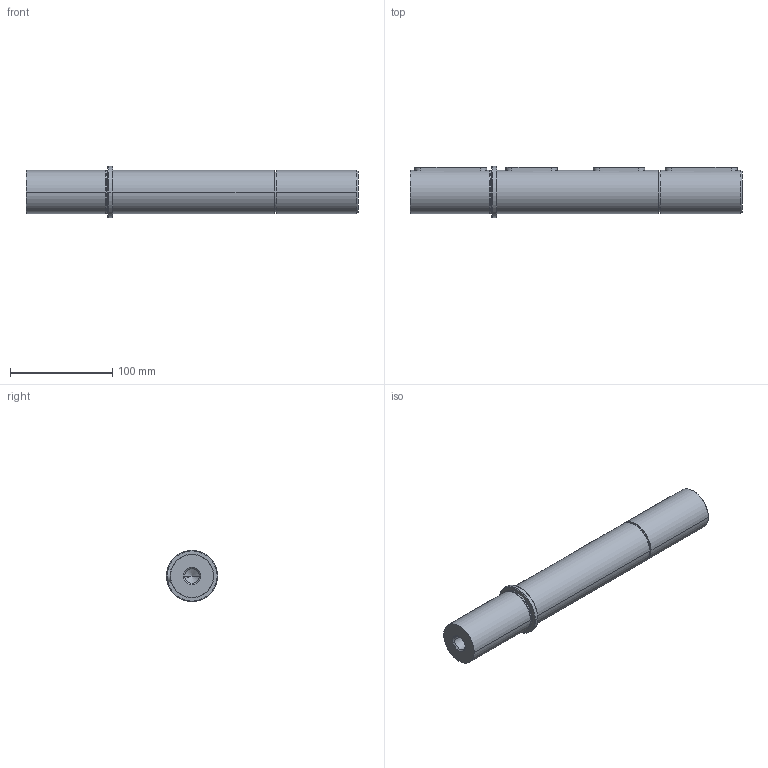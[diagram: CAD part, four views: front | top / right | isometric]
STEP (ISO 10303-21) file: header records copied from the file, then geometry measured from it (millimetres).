
FILE_DESCRIPTION((''),'2;1');
FILE_NAME('DOSB110','2013-09-10T',('tecnicocad'),(''),'PRO/ENGINEER BY PARAMETRIC TECHNOLOGY CORPORATION, 2011490','PRO/ENGINEER BY PARAMETRIC TECHNOLOGY CORPORATION, 2011490','');
FILE_SCHEMA(('CONFIG_CONTROL_DESIGN'));
Length unit declared in the file: millimetre
Products named in the file (1): DOSB110
Bounding box: 324 x 50 x 50 mm (x, y, z)
Volume: 444132.9 mm3; surface area: 53071.3 mm2
Topology: 1 solids, 1 shells, 60 faces, 148 edges, 92 vertices
Faces by surface type: cylinder 24, plane 18, cone 16, torus 2
Entity records: 1881 total; most frequent: CARTESIAN_POINT 419, DIRECTION 308, ORIENTED_EDGE 288, EDGE_CURVE 144, AXIS2_PLACEMENT_3D 120, VERTEX_POINT 92, VECTOR 68, LINE 68
